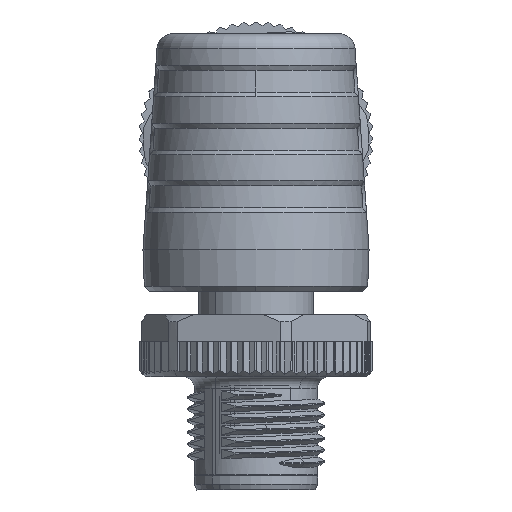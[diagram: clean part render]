
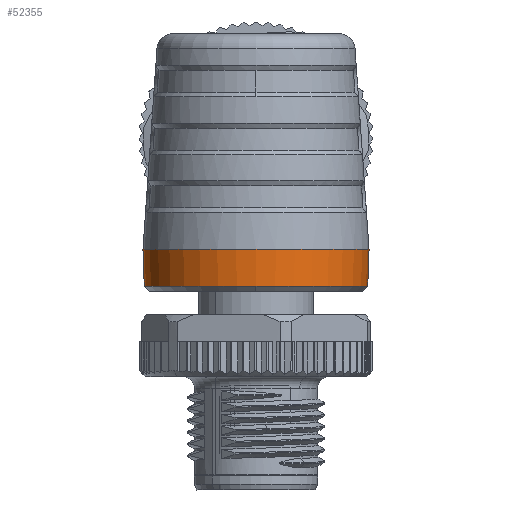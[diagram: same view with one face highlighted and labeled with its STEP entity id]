
A CAD part, left-side view. The second image highlights one B-rep face of the part: STEP entity #52355.
In plain terms, the highlighted conical face has half-angle 2 degrees and reference radius 9.62 mm.
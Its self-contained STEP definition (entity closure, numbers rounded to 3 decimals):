
#2590 = ORIENTED_EDGE ( 'NONE', *, *, #9083, .F. ) ;
#2597 = VERTEX_POINT ( 'NONE', #15193 ) ;
#3722 = EDGE_CURVE ( 'NONE', #43841, #7753, #49003, .T. ) ;
#3776 = EDGE_LOOP ( 'NONE', ( #23228, #27131, #6749, #2590, #34206 ) ) ;
#4660 = DIRECTION ( 'NONE',  ( -1., 0., 0. ) ) ;
#5654 = CARTESIAN_POINT ( 'NONE',  ( -39.35, 9.675, 19.4 ) ) ;
#6749 = ORIENTED_EDGE ( 'NONE', *, *, #12227, .F. ) ;
#6903 = CARTESIAN_POINT ( 'NONE',  ( -39.35, -9.565, 16.25 ) ) ;
#7740 = CIRCLE ( 'NONE', #28047, 9.565 ) ;
#7753 = VERTEX_POINT ( 'NONE', #10977 ) ;
#8225 = VECTOR ( 'NONE', #27945, 1000. ) ;
#9083 = EDGE_CURVE ( 'NONE', #2597, #18654, #40981, .T. ) ;
#10428 = CONICAL_SURFACE ( 'NONE', #48341, 9.62, 0.035 ) ;
#10789 = CARTESIAN_POINT ( 'NONE',  ( -48.915, 0., 16.25 ) ) ;
#10924 = LINE ( 'NONE', #20173, #38949 ) ;
#10977 = CARTESIAN_POINT ( 'NONE',  ( -39.35, 9.565, 16.25 ) ) ;
#11760 = FACE_OUTER_BOUND ( 'NONE', #3776, .T. ) ;
#12047 = DIRECTION ( 'NONE',  ( 0., 0., 1. ) ) ;
#12227 = EDGE_CURVE ( 'NONE', #18654, #43841, #7740, .T. ) ;
#12303 = VERTEX_POINT ( 'NONE', #5654 ) ;
#14613 = CARTESIAN_POINT ( 'NONE',  ( -39.35, 0., 16.25 ) ) ;
#15193 = CARTESIAN_POINT ( 'NONE',  ( -39.35, -9.675, 19.4 ) ) ;
#17688 = CARTESIAN_POINT ( 'NONE',  ( -39.35, 0., 16.25 ) ) ;
#18654 = VERTEX_POINT ( 'NONE', #6903 ) ;
#19555 = CARTESIAN_POINT ( 'NONE',  ( -39.35, -9.675, 19.4 ) ) ;
#20173 = CARTESIAN_POINT ( 'NONE',  ( -39.35, 9.62, 17.825 ) ) ;
#23228 = ORIENTED_EDGE ( 'NONE', *, *, #41661, .F. ) ;
#25890 = AXIS2_PLACEMENT_3D ( 'NONE', #17688, #34445, #4660 ) ;
#27131 = ORIENTED_EDGE ( 'NONE', *, *, #3722, .F. ) ;
#27631 = DIRECTION ( 'NONE',  ( 0., -1., 0. ) ) ;
#27945 = DIRECTION ( 'NONE',  ( 0., 0.035, -0.999 ) ) ;
#28047 = AXIS2_PLACEMENT_3D ( 'NONE', #14613, #31128, #27631 ) ;
#31128 = DIRECTION ( 'NONE',  ( 0., 0., -1. ) ) ;
#33759 = EDGE_CURVE ( 'NONE', #2597, #12303, #56649, .T. ) ;
#34137 = DIRECTION ( 'NONE',  ( 0., -1., 0. ) ) ;
#34206 = ORIENTED_EDGE ( 'NONE', *, *, #33759, .T. ) ;
#34445 = DIRECTION ( 'NONE',  ( 0., 0., -1. ) ) ;
#34708 = CARTESIAN_POINT ( 'NONE',  ( -39.35, 0., 19.4 ) ) ;
#37243 = DIRECTION ( 'NONE',  ( 0., 0.035, 0.999 ) ) ;
#38375 = CARTESIAN_POINT ( 'NONE',  ( -39.35, 0., 17.825 ) ) ;
#38774 = DIRECTION ( 'NONE',  ( 0., 0., -1. ) ) ;
#38949 = VECTOR ( 'NONE', #37243, 1000. ) ;
#40981 = LINE ( 'NONE', #19555, #8225 ) ;
#41661 = EDGE_CURVE ( 'NONE', #7753, #12303, #10924, .T. ) ;
#43841 = VERTEX_POINT ( 'NONE', #10789 ) ;
#47389 = AXIS2_PLACEMENT_3D ( 'NONE', #34708, #38774, #34137 ) ;
#48341 = AXIS2_PLACEMENT_3D ( 'NONE', #38375, #12047, #51129 ) ;
#49003 = CIRCLE ( 'NONE', #25890, 9.565 ) ;
#51129 = DIRECTION ( 'NONE',  ( 0., 1., 0. ) ) ;
#52355 = ADVANCED_FACE ( 'NONE', ( #11760 ), #10428, .T. ) ;
#56649 = CIRCLE ( 'NONE', #47389, 9.675 ) ;
